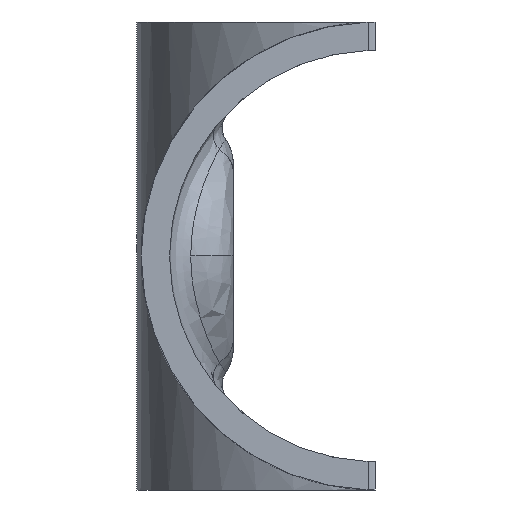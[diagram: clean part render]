
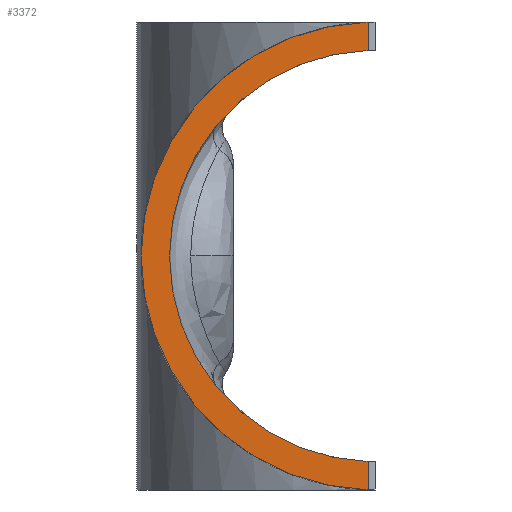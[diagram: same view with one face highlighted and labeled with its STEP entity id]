
A CAD part, left-side view. The second image highlights one B-rep face of the part: STEP entity #3372.
In plain terms, the highlighted planar face has unit normal (-1, 0, 0).
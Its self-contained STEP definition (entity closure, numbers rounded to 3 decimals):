
#10 = FACE_OUTER_BOUND ( 'NONE', #4459, .T. ) ;
#250 = DIRECTION ( 'NONE',  ( 1., 0., 0. ) ) ;
#430 = EDGE_CURVE ( 'NONE', #778, #1886, #442, .T. ) ;
#442 = CIRCLE ( 'NONE', #3646, 16.5 ) ;
#631 = DIRECTION ( 'NONE',  ( 0., 0., 1. ) ) ;
#711 = ORIENTED_EDGE ( 'NONE', *, *, #1938, .T. ) ;
#771 = VERTEX_POINT ( 'NONE', #4358 ) ;
#778 = VERTEX_POINT ( 'NONE', #1067 ) ;
#832 = LINE ( 'NONE', #2709, #1358 ) ;
#848 = AXIS2_PLACEMENT_3D ( 'NONE', #2813, #2345, #4722 ) ;
#1057 = CARTESIAN_POINT ( 'NONE',  ( -64., 0., 16.5 ) ) ;
#1067 = CARTESIAN_POINT ( 'NONE',  ( -64., 0.5, 0.008 ) ) ;
#1173 = ORIENTED_EDGE ( 'NONE', *, *, #1514, .T. ) ;
#1221 = EDGE_CURVE ( 'NONE', #1955, #771, #2037, .T. ) ;
#1305 = VECTOR ( 'NONE', #5219, 1000. ) ;
#1358 = VECTOR ( 'NONE', #631, 1000. ) ;
#1361 = PLANE ( 'NONE',  #848 ) ;
#1514 = EDGE_CURVE ( 'NONE', #778, #771, #2760, .T. ) ;
#1886 = VERTEX_POINT ( 'NONE', #5217 ) ;
#1938 = EDGE_CURVE ( 'NONE', #1955, #1886, #832, .T. ) ;
#1955 = VERTEX_POINT ( 'NONE', #4798 ) ;
#2037 = CIRCLE ( 'NONE', #3933, 14.5 ) ;
#2284 = DIRECTION ( 'NONE',  ( 0., 0., -1. ) ) ;
#2345 = DIRECTION ( 'NONE',  ( 1., 0., 0. ) ) ;
#2709 = CARTESIAN_POINT ( 'NONE',  ( -64., 0.5, 16.5 ) ) ;
#2723 = CARTESIAN_POINT ( 'NONE',  ( -64., 0.5, 16.5 ) ) ;
#2760 = LINE ( 'NONE', #2723, #1305 ) ;
#2813 = CARTESIAN_POINT ( 'NONE',  ( -64., 0., 16.5 ) ) ;
#3266 = ORIENTED_EDGE ( 'NONE', *, *, #430, .F. ) ;
#3372 = ADVANCED_FACE ( 'NONE', ( #10 ), #1361, .F. ) ;
#3646 = AXIS2_PLACEMENT_3D ( 'NONE', #1057, #250, #4016 ) ;
#3905 = CARTESIAN_POINT ( 'NONE',  ( -64., 0., 16.5 ) ) ;
#3933 = AXIS2_PLACEMENT_3D ( 'NONE', #3905, #4301, #2284 ) ;
#4016 = DIRECTION ( 'NONE',  ( 0., 0., -1. ) ) ;
#4301 = DIRECTION ( 'NONE',  ( -1., 0., 0. ) ) ;
#4358 = CARTESIAN_POINT ( 'NONE',  ( -64., 0.5, 2.009 ) ) ;
#4459 = EDGE_LOOP ( 'NONE', ( #3266, #1173, #5298, #711 ) ) ;
#4722 = DIRECTION ( 'NONE',  ( 0., 0., -1. ) ) ;
#4798 = CARTESIAN_POINT ( 'NONE',  ( -64., 0.5, 30.991 ) ) ;
#5217 = CARTESIAN_POINT ( 'NONE',  ( -64., 0.5, 32.992 ) ) ;
#5219 = DIRECTION ( 'NONE',  ( 0., 0., 1. ) ) ;
#5298 = ORIENTED_EDGE ( 'NONE', *, *, #1221, .F. ) ;
